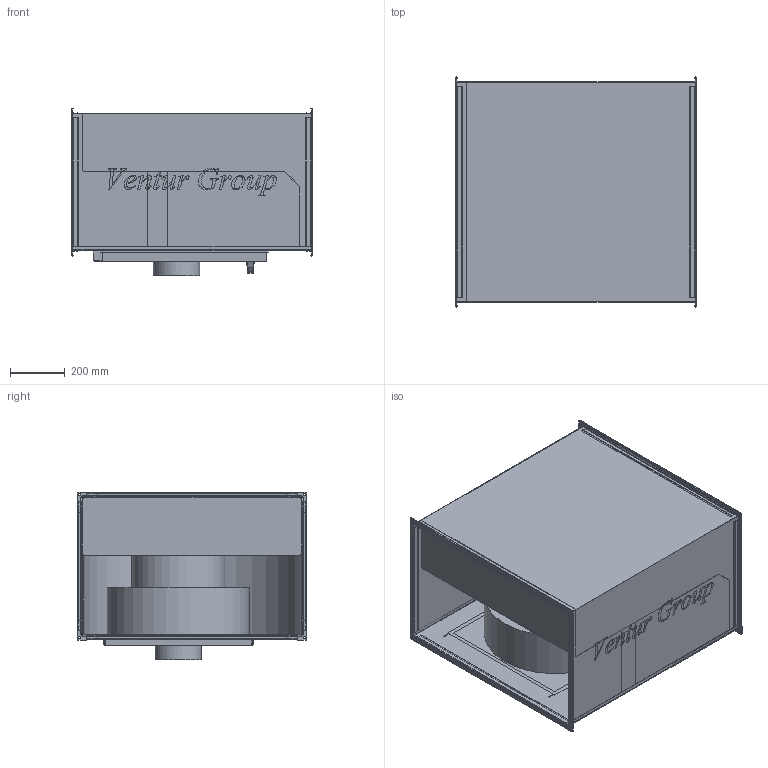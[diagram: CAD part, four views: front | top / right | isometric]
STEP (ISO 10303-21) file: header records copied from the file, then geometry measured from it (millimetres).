
FILE_DESCRIPTION(/* description */ (''),/* implementation_level */ '2;1');
FILE_NAME(/* name */ 'C:\Users\M.Janczarek\Documents\Modele uproszczone\IBF EC\IBF_EC_500T 41010205\IBF_EC_500T 41010205\IBF_EC_500T 41010205.stp',/* time_stamp */ '2018-04-03T11:36:03+02:00',/* author */ ('M.Janczarek'),/* organization */ (''),/* preprocessor_version */ 'ST-DEVELOPER v16.5',/* originating_system */ 'Autodesk Inventor 2017',/* authorisation */ '');
FILE_SCHEMA (('AUTOMOTIVE_DESIGN { 1 0 10303 214 3 1 1 }'));
Length unit declared in the file: millimetre
Products named in the file (1): IBF_EC_500T 41010205
Bounding box: 880 x 841 x 613.6 mm (x, y, z)
Volume: 66033686.2 mm3; surface area: 8954088.6 mm2
Topology: 1 solids, 2 shells, 1409 faces, 4119 edges, 2674 vertices
Faces by surface type: plane 691, cylinder 372, bspline 298, torus 48
Full cylindrical faces by diameter (mm): 9 x8, 170 x1, 340 x1, 521 x1
Entity records: 49528 total; most frequent: CARTESIAN_POINT 12465, ORIENTED_EDGE 8216, DIRECTION 6521, EDGE_CURVE 4108, LINE 2711, VECTOR 2711, VERTEX_POINT 2674, AXIS2_PLACEMENT_3D 1905
